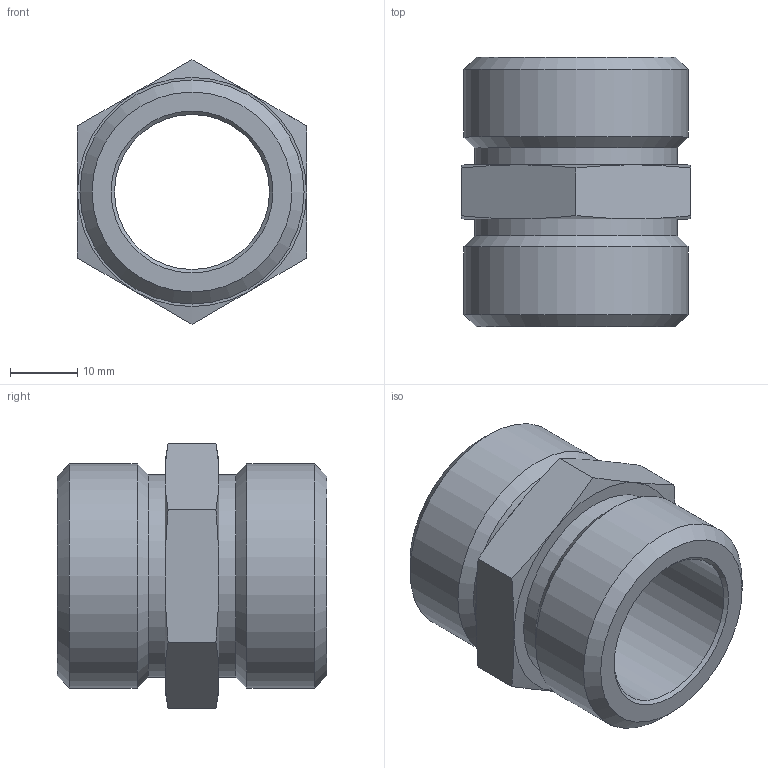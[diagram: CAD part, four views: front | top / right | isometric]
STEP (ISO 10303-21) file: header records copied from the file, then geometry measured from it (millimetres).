
FILE_DESCRIPTION(('STEP AP203'), '1');
FILE_NAME('ÂÐ.753137.064 - VTi.582.I.0606', '', ('UNSPECIFIED'), ('UNSPECIFIED'), 'C3D Converter', 'C3D Toolkit', '');
FILE_SCHEMA(('CONFIG_CONTROL_DESIGN'));
Length unit declared in the file: millimetre
Products named in the file (1): ВР.753137.064
Bounding box: 34 x 40 x 39.26 mm (x, y, z)
Volume: 17721.6 mm3; surface area: 8429.7 mm2
Topology: 1 solids, 1 shells, 32 faces, 76 edges, 50 vertices
Faces by surface type: cone 17, plane 10, cylinder 5
Full cylindrical faces by diameter (mm): 23 x1, 30 x2, 33.249 x2
Entity records: 1785 total; most frequent: CARTESIAN_POINT 1068, DIRECTION 136, ORIENTED_EDGE 106, AXIS2_PLACEMENT_3D 65, EDGE_CURVE 53, EDGE_LOOP 46, VERTEX_POINT 37, CIRCLE 33
